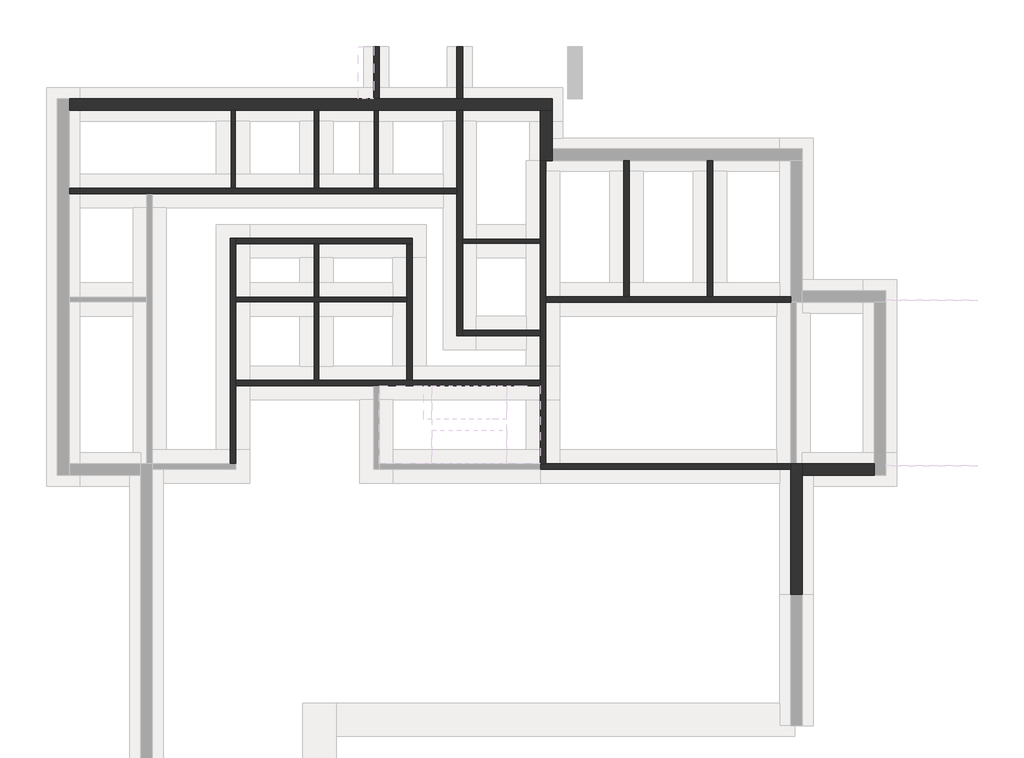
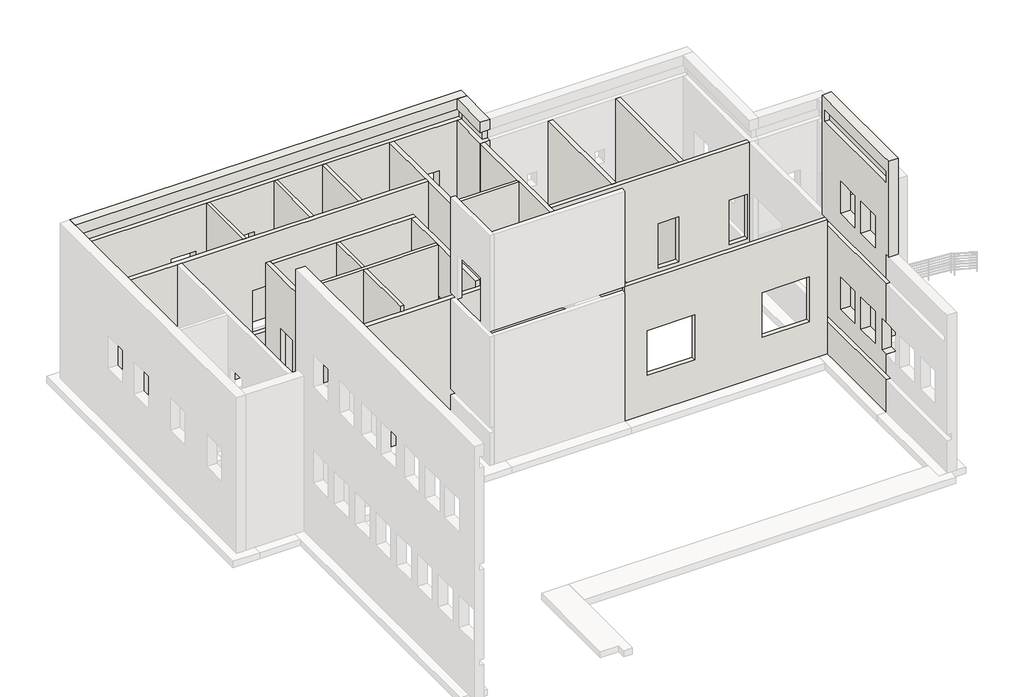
# One storey, part 2 of 5: 24 walls.
"""IFC4 building model written with IfcOpenShell, lengths in millimetres."""

import ifcopenshell
import ifcopenshell.guid

model = None  # the IFC model being written
_history = None  # IfcOwnerHistory: only IFC2X3 demands one
_inside = {}  # id of a spatial element -> (the spatial element, [elements in it])
_under = {}  # id of a project, library or spatial element -> (it, [spatial elements below it])
_declared = {}  # id of a project -> (the project, [libraries it declares])
_typed = {}  # id of a type object -> (the type object, [elements of that type])
_made_of = {}  # id of a material, layer set ... -> (it, [elements and type objects made of it])


def new_model(schema):
    """Start an empty IFC model of exactly this schema.

    Asked for "IFC4X3", IfcOpenShell would pick the latest addendum, in which some entities
    have other attributes; the version numbers below select the first issue.
    IFC2X3 requires an IfcOwnerHistory on every rooted entity: one is made here for all.
    """
    global model, _history
    if schema == "IFC4X3":
        model = ifcopenshell.file(schema_version=(4, 3, 0, 0))
    else:
        model = ifcopenshell.file(schema=schema)
    _inside.clear()
    _under.clear()
    _declared.clear()
    _typed.clear()
    _made_of.clear()
    _history = None
    if model.schema == "IFC2X3":
        org = make("IfcOrganization", Name="unknown")
        user = make(
            "IfcPersonAndOrganization",
            ThePerson=make("IfcPerson", FamilyName="unknown"),
            TheOrganization=org,
        )
        app = make(
            "IfcApplication",
            ApplicationDeveloper=org,
            Version="unknown",
            ApplicationFullName="unknown",
            ApplicationIdentifier="unknown",
        )
        _history = make(
            "IfcOwnerHistory",
            OwningUser=user,
            OwningApplication=app,
            ChangeAction="ADDED",
            CreationDate=0,
        )
    return model


def make(cls, **values):
    """One entity of the class cls with the attributes given. An attribute that is None is left unset."""
    return model.create_entity(
        cls, **{name: value for name, value in values.items() if value is not None}
    )


def rooted(cls, **values):
    """An entity with a GlobalId (a new one), such as an element, a storey or a relation."""
    return make(cls, GlobalId=ifcopenshell.guid.new(), OwnerHistory=_history, **values)


def si_unit(unit_type, name, prefix=None):
    """IfcSIUnit, for example si_unit("LENGTHUNIT", "METRE", prefix="MILLI")."""
    return make("IfcSIUnit", UnitType=unit_type, Prefix=prefix, Name=name)


def assignment(units):
    """IfcUnitAssignment: the units of a project."""
    return None if units is None else make("IfcUnitAssignment", Units=units)


def point(xyz):
    """IfcCartesianPoint."""
    return None if xyz is None else make("IfcCartesianPoint", Coordinates=xyz)


def direction(xyz):
    """IfcDirection."""
    return None if xyz is None else make("IfcDirection", DirectionRatios=xyz)


def frame(location, z_axis=None, x_axis=None):
    """IfcAxis2Placement3D, a coordinate frame: its origin and axes. An axis left out is left unset."""
    return make(
        "IfcAxis2Placement3D",
        Location=point(location),
        Axis=direction(z_axis),
        RefDirection=direction(x_axis),
    )


def origin():
    """The frame at (0, 0, 0) with its axes left unset."""
    return frame((0.0, 0.0, 0.0))


def place(relative_to, where):
    """IfcLocalPlacement: puts the frame where relative to a parent placement (None: the world)."""
    return make(
        "IfcLocalPlacement", PlacementRelTo=relative_to, RelativePlacement=where
    )


def context(
    kind, dimensions, precision=None, world=None, true_north=None, identifier=None
):
    """IfcGeometricRepresentationContext, for example the 3D "Model" context."""
    return make(
        "IfcGeometricRepresentationContext",
        ContextIdentifier=identifier,
        ContextType=kind,
        CoordinateSpaceDimension=dimensions,
        Precision=precision,
        WorldCoordinateSystem=world,
        TrueNorth=true_north,
    )


def project(units=None, contexts=None):
    """IfcProject with its units and contexts."""
    return rooted(
        "IfcProject",
        Name="project",
        RepresentationContexts=contexts,
        UnitsInContext=assignment(units),
    )


def spatial(cls, under=None, at=None, **own):
    """A site, building, storey or space (cls), placed at a placement, below another one or the project."""
    s = rooted(cls, ObjectPlacement=at, **own)
    if under is not None:
        _under.setdefault(under.id(), (under, []))[1].append(s)
    return s


def polyline(points):
    """IfcPolyline through the points."""
    return make("IfcPolyline", Points=[point(p) for p in points])


def outline(outer, holes=None, kind="AREA"):
    """IfcArbitraryClosedProfileDef: a profile drawn as a closed curve; with holes, ...WithVoids."""
    if holes is None:
        return make("IfcArbitraryClosedProfileDef", ProfileType=kind, OuterCurve=outer)
    return make(
        "IfcArbitraryProfileDefWithVoids",
        ProfileType=kind,
        OuterCurve=outer,
        InnerCurves=holes,
    )


def extrude(swept, where, along, depth):
    """IfcExtrudedAreaSolid: the profile swept, set in the frame where, extruded along a direction by depth."""
    return make(
        "IfcExtrudedAreaSolid",
        SweptArea=swept,
        Position=where,
        ExtrudedDirection=direction(along),
        Depth=depth,
    )


def faces_of(points, faces, orient=None, outer=None):
    """IfcFace entities. A face is a list of loops; a loop is a list of indices into points, from 0.

    orient and outer hold one flag for each loop. By default every Orientation is true, the
    first loop of a face is its IfcFaceOuterBound and the others are IfcFaceBound.
    """
    made = []
    for i, loops in enumerate(faces):
        bounds = []
        for j, loop in enumerate(loops):
            is_outer = j == 0 if outer is None else outer[i][j]
            bounds.append(
                make(
                    "IfcFaceOuterBound" if is_outer else "IfcFaceBound",
                    Bound=make("IfcPolyLoop", Polygon=[points[k] for k in loop]),
                    Orientation=True if orient is None else orient[i][j],
                )
            )
        made.append(make("IfcFace", Bounds=bounds))
    return made


def faceted_brep(points, faces, orient=None, outer=None, voids=None):
    """IfcFacetedBrep: a solid bounded by flat faces; with voids (closed shells), ...WithVoids."""
    shared = [point(p) for p in points]
    hull = make("IfcClosedShell", CfsFaces=faces_of(shared, faces, orient, outer))
    if voids is None:
        return make("IfcFacetedBrep", Outer=hull)
    return make(
        "IfcFacetedBrepWithVoids",
        Outer=hull,
        Voids=[
            make(cls, CfsFaces=faces_of(shared, fs, o, b)) for cls, fs, o, b in voids
        ],
    )


def shape(context_of_items, identifier, shape_type, items):
    """IfcShapeRepresentation: the items that make up one representation, for example the "Body"."""
    return make(
        "IfcShapeRepresentation",
        ContextOfItems=context_of_items,
        RepresentationIdentifier=identifier,
        RepresentationType=shape_type,
        Items=items,
    )


def made_of(thing, what):
    """Note that an element or type object is made of a material, layer set ...; save() writes the relation."""
    if what is not None:
        _made_of.setdefault(what.id(), (what, []))[1].append(thing)
    return thing


def element(
    cls,
    number,
    at=None,
    inside=None,
    cuts=None,
    type_object=None,
    material=None,
    context=None,
    identifier="Body",
    shape_type=None,
    held_by="IfcProductDefinitionShape",
    body=None,
    shapes=None,
    **own,
):
    """One element of the class cls, such as IfcWall. Its Tag is "e" and its number.

    at: its placement. inside: the storey or other place that contains it. cuts: it is an
    opening in that element (IfcRelVoidsElement). A single representation is given by context,
    identifier, shape_type and body (its items); several are given by shapes. held_by: the class
    of the entity that holds the representations. save() writes the other relations.
    """
    e = rooted(cls, Tag="e%d" % number, ObjectPlacement=at, **own)
    if body is not None:
        shapes = [shape(context, identifier, shape_type, body)]
    if shapes is not None:
        e.Representation = make(held_by, Representations=shapes)
    if inside is not None:
        _inside.setdefault(inside.id(), (inside, []))[1].append(e)
    if cuts is not None:
        rooted(
            "IfcRelVoidsElement", RelatingBuildingElement=cuts, RelatedOpeningElement=e
        )
    if type_object is not None:
        _typed.setdefault(type_object.id(), (type_object, []))[1].append(e)
    return made_of(e, material)


def aggregate(whole, parts):
    """IfcRelAggregates: a whole, such as a stair, and the parts it consists of."""
    return rooted("IfcRelAggregates", RelatingObject=whole, RelatedObjects=parts)


def save(model, path):
    """Write the relations noted so far, then the file.

    IfcRelAggregates (storeys below a building ...), IfcRelContainedInSpatialStructure (elements
    in a storey), IfcRelDefinesByType, IfcRelAssociatesMaterial and IfcRelDeclares: one each for
    every whole, place, type object, material and project.
    """
    for whole, parts in _under.values():
        aggregate(whole, parts)
    for where, things in _inside.values():
        rooted(
            "IfcRelContainedInSpatialStructure",
            RelatedElements=things,
            RelatingStructure=where,
        )
    for kind, things in _typed.values():
        rooted("IfcRelDefinesByType", RelatedObjects=things, RelatingType=kind)
    for what, things in _made_of.values():
        rooted("IfcRelAssociatesMaterial", RelatedObjects=things, RelatingMaterial=what)
    for by, libraries in _declared.values():
        rooted("IfcRelDeclares", RelatingContext=by, RelatedDefinitions=libraries)
    model.write(path)


model = new_model("IFC4")

# Units and contexts
model_context = context("Model", 3, world=origin())
ifc_project = project(units=[si_unit("LENGTHUNIT", "METRE", prefix="MILLI")], contexts=[model_context])

# Site, building, storey
site = spatial("IfcSite", under=ifc_project)
building = spatial("IfcBuilding", under=site)
storey = spatial("IfcBuildingStorey", under=building, Name="Фундамент", Elevation=-1800.0)

# Walls
placement = place(None, origin())
element("IfcWall", 1, ObjectType="_ЖБ-200_У-100_К-120", at=placement, inside=storey, context=model_context, shape_type="Brep", body=[
    faceted_brep([(-17307.2117644, 18492.3976828, -1800.0), (-357.2117644, 18492.3976828, -1800.0), (62.7882356, 18492.3976828, -1800.0), (62.7882356, 18492.3976828, 5500.0), (-357.2117644, 18492.3976828, 5500.0), (-17307.2117644, 18492.3976828, 5500.0), (-17307.2117644, 18492.3976828, 5015.0), (-357.2117644, 18492.3976828, 5015.0), (-157.2117644, 18492.3976828, 5015.0), (-157.2117644, 18492.3976828, 4500.0), (-357.2117644, 18492.3976828, 4500.0), (-6332.2117644, 18492.3976828, 4500.0), (-8332.2117644, 18492.3976828, 4500.0), (-17307.2117644, 18492.3976828, 4500.0), (-17307.2117644, 18492.3976828, 0.0), (-8332.2117644, 18492.3976828, 0.0), (-6332.2117644, 18492.3976828, 0.0), (-6007.2117644, 18492.3976828, 0.0), (-6007.2117644, 18492.3976828, 2200.0), (-3507.2117644, 18492.3976828, 2200.0), (-3507.2117644, 18492.3976828, 0.0), (-357.2117644, 18492.3976828, 0.0), (-157.2117644, 18492.3976828, 0.0), (-157.2117644, 18492.3976828, -270.0), (-357.2117644, 18492.3976828, -270.0), (-17307.2117644, 18492.3976828, -270.0), (-2252.2117644, 18492.3976828, 915.0), (-2252.2117644, 18492.3976828, 2415.0), (-1152.2117644, 18492.3976828, 2415.0), (-1152.2117644, 18492.3976828, 915.0), (-10457.2117644, 18492.3976828, 915.0), (-10457.2117644, 18492.3976828, 2415.0), (-9357.2117644, 18492.3976828, 2415.0), (-9357.2117644, 18492.3976828, 915.0), (-13057.2117644, 18492.3976828, 915.0), (-13057.2117644, 18492.3976828, 2415.0), (-11957.2117644, 18492.3976828, 2415.0), (-11957.2117644, 18492.3976828, 915.0), (-16567.2117644, 18492.3976828, 915.0), (-16567.2117644, 18492.3976828, 2415.0), (-15467.2117644, 18492.3976828, 2415.0), (-15467.2117644, 18492.3976828, 915.0), (62.7882356, 18912.3976828, -1800.0), (-3157.2117644, 18912.3976828, -1800.0), (-3357.2117644, 18912.3976828, -1800.0), (-6157.2117644, 18912.3976828, -1800.0), (-6357.2117644, 18912.3976828, -1800.0), (-17307.2117644, 18912.3976828, -1800.0), (-17307.2117644, 18912.3976828, 5500.0), (62.7882356, 18912.3976828, 5500.0), (-3507.2117644, 18912.3976828, 0.0), (-3507.2117644, 18912.3976828, 2200.0), (-6007.2117644, 18912.3976828, 2200.0), (-6007.2117644, 18912.3976828, 0.0), (-2252.2117644, 18912.3976828, 2415.0), (-2252.2117644, 18912.3976828, 915.0), (-1152.2117644, 18912.3976828, 915.0), (-1152.2117644, 18912.3976828, 2415.0), (-10457.2117644, 18912.3976828, 2415.0), (-10457.2117644, 18912.3976828, 915.0), (-9357.2117644, 18912.3976828, 915.0), (-9357.2117644, 18912.3976828, 2415.0), (-13057.2117644, 18912.3976828, 2415.0), (-13057.2117644, 18912.3976828, 915.0), (-11957.2117644, 18912.3976828, 915.0), (-11957.2117644, 18912.3976828, 2415.0), (-16567.2117644, 18912.3976828, 2415.0), (-16567.2117644, 18912.3976828, 915.0), (-15467.2117644, 18912.3976828, 915.0), (-15467.2117644, 18912.3976828, 2415.0), (-6357.2117644, 18912.3976828, -270.0), (-6157.2117644, 18912.3976828, -270.0), (-3357.2117644, 18912.3976828, -270.0), (-3157.2117644, 18912.3976828, -270.0), (-3157.2117644, 18912.3976828, -70.0), (-6357.2117644, 18912.3976828, -70.0), (-17307.2117644, 18692.3976828, -270.0), (-17307.2117644, 18692.3976828, 0.0), (-17307.2117644, 18692.3976828, 4500.0), (-17307.2117644, 18692.3976828, 5015.0), (-157.2117644, 18692.3976828, -270.0), (-3157.2117644, 18692.3976828, -270.0), (-6357.2117644, 18692.3976828, -270.0), (-6007.2117644, 18692.3976828, 0.0), (-3507.2117644, 18692.3976828, 0.0), (-157.2117644, 18692.3976828, 0.0), (-6357.2117644, 18692.3976828, -70.0), (-3157.2117644, 18692.3976828, -70.0), (-157.2117644, 18692.3976828, 4500.0), (-157.2117644, 18692.3976828, 5015.0)], [[[0, 1, 2, 3, 4, 5, 6, 7, 8, 9, 10, 11, 12, 13, 14, 15, 16, 17, 18, 19, 20, 21, 22, 23, 24, 25], [26, 27, 28, 29], [30, 31, 32, 33], [34, 35, 36, 37], [38, 39, 40, 41]], [[42, 43, 44, 45, 46, 47, 48, 49], [50, 51, 52, 53], [54, 55, 56, 57], [58, 59, 60, 61], [62, 63, 64, 65], [66, 67, 68, 69], [70, 71, 72, 73, 74, 75]], [[2, 1, 0, 47, 46, 45, 44, 43, 42]], [[5, 4, 3, 49, 48]], [[5, 48, 47, 0, 25, 76, 77, 14, 13, 78, 79, 6]], [[3, 2, 42, 49]], [[23, 80, 81, 73, 72, 71, 70, 82, 76, 25, 24]], [[17, 16, 15, 14, 77, 83]], [[84, 85, 22, 21, 20]], [[80, 85, 84, 83, 77, 76, 82, 86, 87, 81]], [[85, 80, 23, 22]], [[9, 88, 78, 13, 12, 11, 10]], [[89, 8, 7, 6, 79]], [[88, 89, 79, 78]], [[89, 88, 9, 8]], [[51, 50, 84, 20, 19]], [[52, 51, 19, 18]], [[53, 52, 18, 17, 83]], [[50, 53, 83, 84]], [[27, 26, 55, 54]], [[28, 27, 54, 57]], [[29, 28, 57, 56]], [[26, 29, 56, 55]], [[31, 30, 59, 58]], [[32, 31, 58, 61]], [[33, 32, 61, 60]], [[30, 33, 60, 59]], [[35, 34, 63, 62]], [[36, 35, 62, 65]], [[37, 36, 65, 64]], [[34, 37, 64, 63]], [[39, 38, 67, 66]], [[40, 39, 66, 69]], [[41, 40, 69, 68]], [[38, 41, 68, 67]], [[86, 75, 74, 87]], [[82, 70, 75, 86]], [[73, 81, 87, 74]]]),
])
element("IfcWall", 2, ObjectType="_ЖБ-200_У-100_К-120", at=placement, inside=storey, context=model_context, shape_type="Brep", body=[
    faceted_brep([(-357.2117644, 18492.3976828, -1800.0), (-357.2117644, 16692.3976828, -1800.0), (-357.2117644, 16692.3976828, -270.0), (-357.2117644, 18492.3976828, -270.0), (-357.2117644, 16692.3976828, 5500.0), (-357.2117644, 18492.3976828, 5500.0), (-357.2117644, 18492.3976828, 5015.0), (-357.2117644, 16692.3976828, 5015.0), (-357.2117644, 18492.3976828, 0.0), (-357.2117644, 16692.3976828, 0.0), (-357.2117644, 16692.3976828, 4500.0), (-357.2117644, 18492.3976828, 4500.0), (62.7882356, 16692.3976828, -1800.0), (62.7882356, 17112.3976828, -1800.0), (62.7882356, 18492.3976828, -1800.0), (62.7882356, 18492.3976828, 5500.0), (62.7882356, 17112.3976828, 5500.0), (62.7882356, 16692.3976828, 5500.0), (62.7882356, 16692.3976828, 5015.0), (62.7882356, 16892.3976828, 5015.0), (62.7882356, 16892.3976828, 4500.0), (62.7882356, 16692.3976828, 4500.0), (62.7882356, 16692.3976828, 0.0), (62.7882356, 16892.3976828, 0.0), (62.7882356, 16892.3976828, -270.0), (62.7882356, 16692.3976828, -270.0), (-157.2117644, 18492.3976828, -270.0), (-157.2117644, 18492.3976828, 0.0), (-157.2117644, 18492.3976828, 4500.0), (-157.2117644, 18492.3976828, 5015.0), (-157.2117644, 16892.3976828, -270.0), (-157.2117644, 16892.3976828, 0.0), (-157.2117644, 16892.3976828, 4500.0), (-157.2117644, 16892.3976828, 5015.0)], [[[0, 1, 2, 3]], [[4, 5, 6, 7]], [[8, 9, 10, 11]], [[12, 13, 14, 15, 16, 17, 18, 19, 20, 21, 22, 23, 24, 25]], [[1, 0, 14, 13, 12]], [[5, 4, 17, 16, 15]], [[5, 15, 14, 0, 3, 26, 27, 8, 11, 28, 29, 6]], [[24, 30, 26, 3, 2, 25]], [[27, 31, 23, 22, 9, 8]], [[30, 31, 27, 26]], [[31, 30, 24, 23]], [[1, 12, 25, 2]], [[17, 4, 7, 18]], [[9, 22, 21, 10]], [[20, 32, 28, 11, 10, 21]], [[29, 33, 19, 18, 7, 6]], [[33, 32, 20, 19]], [[32, 33, 29, 28]]]),
])
element("IfcWall", 3, ObjectType="_ЖБ-200_У-100_К-120", at=placement, inside=storey, context=model_context, shape_type="Brep", body=[
    faceted_brep([(11642.7882356, 5792.3976828, -1800.0), (9062.7882356, 5792.3976828, -1800.0), (9062.7882356, 5792.3976828, -270.0), (11642.7882356, 5792.3976828, -270.0), (9062.7882356, 5792.3976828, 5500.0), (11642.7882356, 5792.3976828, 5500.0), (11642.7882356, 5792.3976828, 5015.0), (11642.7882356, 5792.3976828, 4500.0), (11642.7882356, 5792.3976828, 0.0), (9062.7882356, 5792.3976828, 0.0), (9062.7882356, 5792.3976828, 4500.0), (10902.7882356, 5792.3976828, 915.0), (10902.7882356, 5792.3976828, 2415.0), (9802.7882356, 5792.3976828, 2415.0), (9802.7882356, 5792.3976828, 915.0), (9062.7882356, 5372.3976828, -1800.0), (11642.7882356, 5372.3976828, -1800.0), (11642.7882356, 5372.3976828, 5500.0), (9062.7882356, 5372.3976828, 5500.0), (10902.7882356, 5372.3976828, 2415.0), (10902.7882356, 5372.3976828, 915.0), (9802.7882356, 5372.3976828, 915.0), (9802.7882356, 5372.3976828, 2415.0), (11642.7882356, 5592.3976828, -270.0), (11642.7882356, 5592.3976828, 0.0), (9062.7882356, 5592.3976828, -270.0), (9062.7882356, 5592.3976828, 0.0)], [[[0, 1, 2, 3]], [[4, 5, 6, 7, 8, 9, 10], [11, 12, 13, 14]], [[15, 16, 17, 18], [19, 20, 21, 22]], [[1, 0, 16, 15]], [[5, 4, 18, 17]], [[5, 17, 16, 0, 3, 23, 24, 8, 7, 6]], [[25, 23, 3, 2]], [[24, 26, 9, 8]], [[23, 25, 26, 24]], [[1, 15, 18, 4, 10, 9, 26, 25, 2]], [[12, 11, 20, 19]], [[13, 12, 19, 22]], [[14, 13, 22, 21]], [[11, 14, 21, 20]]]),
])
element("IfcWall", 4, ObjectType="_ЖБ-200_У-100_К-120", at=placement, inside=storey, context=model_context, shape_type="Brep", body=[
    faceted_brep([(8642.7882356, 5792.3976828, -1800.0), (8642.7882356, 1082.3976828, -1800.0), (8642.7882356, 1082.3976828, -270.0), (8642.7882356, 5792.3976828, -270.0), (8642.7882356, 872.3976828, 10100.0), (8642.7882356, 1292.3976828, 10100.0), (8642.7882356, 5592.3976828, 10100.0), (8642.7882356, 6012.3976828, 10100.0), (8642.7882356, 6012.3976828, 5015.0), (8642.7882356, 6012.3976828, 4500.0), (8642.7882356, 5792.3976828, 4500.0), (8642.7882356, 5592.3976828, 4500.0), (8642.7882356, 1292.3976828, 4500.0), (8642.7882356, 1082.3976828, 4500.0), (8642.7882356, 1082.3976828, 5600.0), (8642.7882356, 872.3976828, 5600.0), (8642.7882356, 1092.3976828, 9000.0), (8642.7882356, 1292.3976828, 9000.0), (8642.7882356, 5592.3976828, 9000.0), (8642.7882356, 5792.3976828, 9000.0), (8642.7882356, 5792.3976828, 9515.0), (8642.7882356, 5592.3976828, 9515.0), (8642.7882356, 1292.3976828, 9515.0), (8642.7882356, 1092.3976828, 9515.0), (8642.7882356, 4582.3976828, 5415.0), (8642.7882356, 4582.3976828, 6915.0), (8642.7882356, 3482.3976828, 6915.0), (8642.7882356, 3482.3976828, 5415.0), (8642.7882356, 3032.3976828, 5415.0), (8642.7882356, 3032.3976828, 6915.0), (8642.7882356, 1932.3976828, 6915.0), (8642.7882356, 1932.3976828, 5415.0), (8642.7882356, 5792.3976828, 0.0), (8642.7882356, 1082.3976828, 0.0), (8642.7882356, 1082.3976828, 915.0), (8642.7882356, 1432.3976828, 915.0), (8642.7882356, 1432.3976828, 2415.0), (8642.7882356, 1082.3976828, 2415.0), (8642.7882356, 1082.3976828, 4230.0), (8642.7882356, 5792.3976828, 4230.0), (8642.7882356, 3032.3976828, 915.0), (8642.7882356, 3032.3976828, 2415.0), (8642.7882356, 1932.3976828, 2415.0), (8642.7882356, 1932.3976828, 915.0), (8642.7882356, 4582.3976828, 915.0), (8642.7882356, 4582.3976828, 2415.0), (8642.7882356, 3482.3976828, 2415.0), (8642.7882356, 3482.3976828, 915.0), (9062.7882356, 1082.3976828, -1800.0), (9062.7882356, 5372.3976828, -1800.0), (9062.7882356, 5792.3976828, -1800.0), (9062.7882356, 5792.3976828, -270.0), (9062.7882356, 5592.3976828, -270.0), (9062.7882356, 5592.3976828, 0.0), (9062.7882356, 5792.3976828, 0.0), (9062.7882356, 5792.3976828, 4500.0), (9062.7882356, 6012.3976828, 4500.0), (9062.7882356, 6012.3976828, 10100.0), (9062.7882356, 872.3976828, 10100.0), (9062.7882356, 872.3976828, 5600.0), (9062.7882356, 1082.3976828, 5600.0), (9062.7882356, 1082.3976828, 2415.0), (9062.7882356, 1432.3976828, 2415.0), (9062.7882356, 1432.3976828, 915.0), (9062.7882356, 1082.3976828, 915.0), (9062.7882356, 3032.3976828, 2415.0), (9062.7882356, 3032.3976828, 915.0), (9062.7882356, 1932.3976828, 915.0), (9062.7882356, 1932.3976828, 2415.0), (9062.7882356, 4582.3976828, 2415.0), (9062.7882356, 4582.3976828, 915.0), (9062.7882356, 3482.3976828, 915.0), (9062.7882356, 3482.3976828, 2415.0), (9062.7882356, 4582.3976828, 6915.0), (9062.7882356, 4582.3976828, 5415.0), (9062.7882356, 3482.3976828, 5415.0), (9062.7882356, 3482.3976828, 6915.0), (9062.7882356, 3032.3976828, 6915.0), (9062.7882356, 3032.3976828, 5415.0), (9062.7882356, 1932.3976828, 5415.0), (9062.7882356, 1932.3976828, 6915.0), (8842.7882356, 5792.3976828, 4500.0), (8842.7882356, 1082.3976828, 4500.0), (8842.7882356, 5792.3976828, 4230.0), (8842.7882356, 1082.3976828, 0.0), (8842.7882356, 1082.3976828, -270.0), (8842.7882356, 1082.3976828, 4230.0), (8842.7882356, 5592.3976828, -270.0), (8842.7882356, 5592.3976828, 0.0), (8842.7882356, 1092.3976828, 9000.0), (8842.7882356, 5792.3976828, 9000.0), (8842.7882356, 5792.3976828, 9515.0), (8842.7882356, 1092.3976828, 9515.0)], [[[0, 1, 2, 3]], [[4, 5, 6, 7, 8, 9, 10, 11, 12, 13, 14, 15], [16, 17, 18, 19, 20, 21, 22, 23], [24, 25, 26, 27], [28, 29, 30, 31]], [[32, 33, 34, 35, 36, 37, 38, 39], [40, 41, 42, 43], [44, 45, 46, 47]], [[48, 49, 50, 51, 52, 53, 54, 55, 56, 57, 58, 59, 60, 61, 62, 63, 64], [65, 66, 67, 68], [69, 70, 71, 72], [73, 74, 75, 76], [77, 78, 79, 80]], [[1, 0, 50, 49, 48]], [[7, 6, 5, 4, 58, 57]], [[56, 55, 81, 82, 13, 12, 11, 10, 9]], [[50, 0, 3, 51]], [[54, 32, 39, 83, 81, 55]], [[1, 48, 64, 34, 33, 84, 85, 2]], [[60, 14, 13, 82, 86, 38, 37, 61]], [[15, 14, 60, 59]], [[4, 15, 59, 58]], [[85, 87, 52, 51, 3, 2]], [[88, 84, 33, 32, 54, 53]], [[87, 88, 53, 52]], [[87, 85, 84, 88]], [[86, 83, 39, 38]], [[83, 86, 82, 81]], [[7, 57, 56, 9, 8]], [[89, 90, 19, 18, 17, 16]], [[91, 92, 23, 22, 21, 20]], [[92, 89, 16, 23]], [[90, 89, 92, 91]], [[90, 91, 20, 19]], [[35, 63, 62, 36]], [[36, 62, 61, 37]], [[63, 35, 34, 64]], [[41, 40, 66, 65]], [[42, 41, 65, 68]], [[43, 42, 68, 67]], [[40, 43, 67, 66]], [[45, 44, 70, 69]], [[46, 45, 69, 72]], [[47, 46, 72, 71]], [[44, 47, 71, 70]], [[25, 24, 74, 73]], [[26, 25, 73, 76]], [[27, 26, 76, 75]], [[24, 27, 75, 74]], [[29, 28, 78, 77]], [[30, 29, 77, 80]], [[31, 30, 80, 79]], [[28, 31, 79, 78]]]),
])
element("IfcWall", 5, ObjectType="_ЖБ-200", at=placement, inside=storey, context=model_context, shape_type="Brep", body=[
    faceted_brep([(-11307.2117644, 5792.3976828, -1800.0), (-11307.2117644, 8592.3976828, -1800.0), (-11307.2117644, 8792.3976828, -1800.0), (-11307.2117644, 11617.3976828, -1800.0), (-11307.2117644, 11767.3976828, -1800.0), (-11307.2117644, 13692.3976828, -1800.0), (-11307.2117644, 13892.3976828, -1800.0), (-11307.2117644, 13892.3976828, 4500.0), (-11307.2117644, 13692.3976828, 4500.0), (-11307.2117644, 11767.3976828, 4500.0), (-11307.2117644, 11617.3976828, 4500.0), (-11307.2117644, 5792.3976828, 4500.0), (-11307.2117644, 6292.3976828, 0.0), (-11307.2117644, 6292.3976828, 2100.0), (-11307.2117644, 8092.3976828, 2100.0), (-11307.2117644, 8092.3976828, 0.0), (-11307.2117644, 12742.3976828, 0.0), (-11307.2117644, 11842.3976828, 0.0), (-11307.2117644, 11842.3976828, 2100.0), (-11307.2117644, 12742.3976828, 2100.0), (-11307.2117644, 10542.3976828, 0.0), (-11307.2117644, 10542.3976828, 2100.0), (-11307.2117644, 11442.3976828, 2100.0), (-11307.2117644, 11442.3976828, 0.0), (-11507.2117644, 5792.3976828, -1800.0), (-11507.2117644, 5792.3976828, 4500.0), (-11507.2117644, 13892.3976828, 4500.0), (-11507.2117644, 13892.3976828, -1800.0), (-11507.2117644, 6292.3976828, 0.0), (-11507.2117644, 8092.3976828, 0.0), (-11507.2117644, 8092.3976828, 2100.0), (-11507.2117644, 6292.3976828, 2100.0), (-11507.2117644, 12742.3976828, 0.0), (-11507.2117644, 12742.3976828, 2100.0), (-11507.2117644, 11842.3976828, 2100.0), (-11507.2117644, 11842.3976828, 0.0), (-11507.2117644, 10542.3976828, 0.0), (-11507.2117644, 11442.3976828, 0.0), (-11507.2117644, 11442.3976828, 2100.0), (-11507.2117644, 10542.3976828, 2100.0)], [[[0, 1, 2, 3, 4, 5, 6, 7, 8, 9, 10, 11], [12, 13, 14, 15], [16, 17, 18, 19], [20, 21, 22, 23]], [[24, 25, 26, 27], [28, 29, 30, 31], [32, 33, 34, 35], [36, 37, 38, 39]], [[6, 5, 4, 3, 2, 1, 0, 24, 27]], [[11, 10, 9, 8, 7, 26, 25]], [[0, 11, 25, 24]], [[7, 6, 27, 26]], [[13, 12, 28, 31]], [[14, 13, 31, 30]], [[15, 14, 30, 29]], [[12, 15, 29, 28]], [[17, 16, 32, 35]], [[18, 17, 35, 34]], [[19, 18, 34, 33]], [[16, 19, 33, 32]], [[37, 36, 20, 23]], [[38, 37, 23, 22]], [[39, 38, 22, 21]], [[36, 39, 21, 20]]]),
])
element("IfcWall", 6, ObjectType="_ЖБ-200", at=placement, inside=storey, context=model_context, shape_type="Brep", body=[
    faceted_brep([(-11307.2117644, 8592.3976828, -1800.0), (-6357.2117644, 8592.3976828, -1800.0), (-6157.2117644, 8592.3976828, -1800.0), (-357.2117644, 8592.3976828, -1800.0), (-357.2117644, 8592.3976828, 4500.0), (-4557.2117644, 8592.3976828, 4500.0), (-4557.2117644, 8592.3976828, 4230.0), (-6157.2117644, 8592.3976828, 4230.0), (-6357.2117644, 8592.3976828, 4230.0), (-11307.2117644, 8592.3976828, 4230.0), (-357.2117644, 8792.3976828, -1800.0), (-4957.2117644, 8792.3976828, -1800.0), (-5157.2117644, 8792.3976828, -1800.0), (-8332.2117644, 8792.3976828, -1800.0), (-8482.2117644, 8792.3976828, -1800.0), (-11307.2117644, 8792.3976828, -1800.0), (-11307.2117644, 8792.3976828, 4230.0), (-4557.2117644, 8792.3976828, 4230.0), (-4557.2117644, 8792.3976828, 4500.0), (-357.2117644, 8792.3976828, 4500.0)], [[[0, 1, 2, 3, 4, 5, 6, 7, 8, 9]], [[10, 11, 12, 13, 14, 15, 16, 17, 18, 19]], [[3, 2, 1, 0, 15, 14, 13, 12, 11, 10]], [[4, 19, 18, 5]], [[15, 0, 9, 16]], [[4, 3, 10, 19]], [[6, 17, 16, 9, 8, 7]], [[17, 6, 5, 18]]]),
])
element("IfcWall", 7, ObjectType="_ЖБ-200", at=placement, inside=storey, context=model_context, shape_type="Brep", body=[
    faceted_brep([(-157.2117644, 5792.3976828, -1800.0), (-157.2117644, 11592.3976828, -1800.0), (-157.2117644, 11792.3976828, -1800.0), (-157.2117644, 16692.3976828, -1800.0), (-157.2117644, 16692.3976828, -270.0), (-157.2117644, 5792.3976828, -270.0), (-357.2117644, 16692.3976828, -1800.0), (-357.2117644, 13867.3976828, -1800.0), (-357.2117644, 13717.3976828, -1800.0), (-357.2117644, 10592.3976828, -1800.0), (-357.2117644, 10392.3976828, -1800.0), (-357.2117644, 8792.3976828, -1800.0), (-357.2117644, 8592.3976828, -1800.0), (-357.2117644, 6292.3976828, -1800.0), (-357.2117644, 5792.3976828, -1800.0), (-357.2117644, 5792.3976828, -270.0), (-357.2117644, 16692.3976828, -270.0)], [[[0, 1, 2, 3, 4, 5]], [[6, 7, 8, 9, 10, 11, 12, 13, 14, 15, 16]], [[3, 2, 1, 0, 14, 13, 12, 11, 10, 9, 8, 7, 6]], [[3, 6, 16, 4]], [[14, 0, 5, 15]], [[5, 4, 16, 15]]]),
    faceted_brep([(-157.2117644, 16692.3976828, 4500.0), (-157.2117644, 11792.3976828, 4500.0), (-157.2117644, 11592.3976828, 4500.0), (-157.2117644, 5792.3976828, 4500.0), (-157.2117644, 5792.3976828, 0.0), (-157.2117644, 6392.3976828, 0.0), (-157.2117644, 6392.3976828, 2100.0), (-157.2117644, 8192.3976828, 2100.0), (-157.2117644, 8192.3976828, 0.0), (-157.2117644, 8842.3976828, 0.0), (-157.2117644, 8842.3976828, 2100.0), (-157.2117644, 9742.3976828, 2100.0), (-157.2117644, 9742.3976828, 0.0), (-157.2117644, 16692.3976828, 0.0), (-357.2117644, 5792.3976828, 4500.0), (-357.2117644, 8592.3976828, 4500.0), (-357.2117644, 8792.3976828, 4500.0), (-357.2117644, 10392.3976828, 4500.0), (-357.2117644, 10592.3976828, 4500.0), (-357.2117644, 13717.3976828, 4500.0), (-357.2117644, 13867.3976828, 4500.0), (-357.2117644, 16692.3976828, 4500.0), (-357.2117644, 16692.3976828, 0.0), (-357.2117644, 9742.3976828, 0.0), (-357.2117644, 9742.3976828, 2100.0), (-357.2117644, 8842.3976828, 2100.0), (-357.2117644, 8842.3976828, 0.0), (-357.2117644, 8192.3976828, 0.0), (-357.2117644, 8192.3976828, 2100.0), (-357.2117644, 6392.3976828, 2100.0), (-357.2117644, 6392.3976828, 0.0), (-357.2117644, 5792.3976828, 0.0)], [[[0, 1, 2, 3, 4, 5, 6, 7, 8, 9, 10, 11, 12, 13]], [[14, 15, 16, 17, 18, 19, 20, 21, 22, 23, 24, 25, 26, 27, 28, 29, 30, 31]], [[3, 2, 1, 0, 21, 20, 19, 18, 17, 16, 15, 14]], [[21, 0, 13, 22]], [[3, 14, 31, 4]], [[10, 9, 26, 25]], [[11, 10, 25, 24]], [[12, 11, 24, 23]], [[13, 12, 23, 22]], [[5, 4, 31, 30]], [[9, 8, 27, 26]], [[6, 5, 30, 29]], [[7, 6, 29, 28]], [[8, 7, 28, 27]]]),
])
element("IfcWall", 8, ObjectType="_ЖБ-200", at=placement, inside=storey, context=model_context, shape_type="Brep", body=[
    faceted_brep([(-157.2117644, 11592.3976828, -1800.0), (8642.7882356, 11592.3976828, -1800.0), (8642.7882356, 11592.3976828, 4500.0), (-157.2117644, 11592.3976828, 4500.0), (892.7882356, 11592.3976828, 0.0), (-7.2117644, 11592.3976828, 0.0), (-7.2117644, 11592.3976828, 2100.0), (892.7882356, 11592.3976828, 2100.0), (7752.7882356, 11592.3976828, 0.0), (7752.7882356, 11592.3976828, 2100.0), (8552.7882356, 11592.3976828, 2100.0), (8552.7882356, 11592.3976828, 0.0), (4592.7882356, 11592.3976828, 0.0), (4592.7882356, 11592.3976828, 2100.0), (5492.7882356, 11592.3976828, 2100.0), (5492.7882356, 11592.3976828, 0.0), (-157.2117644, 11792.3976828, -1800.0), (-157.2117644, 11792.3976828, 4500.0), (2642.7882356, 11792.3976828, 4500.0), (2842.7882356, 11792.3976828, 4500.0), (5642.7882356, 11792.3976828, 4500.0), (5842.7882356, 11792.3976828, 4500.0), (8642.7882356, 11792.3976828, 4500.0), (8642.7882356, 11792.3976828, -1800.0), (5842.7882356, 11792.3976828, -1800.0), (5642.7882356, 11792.3976828, -1800.0), (2842.7882356, 11792.3976828, -1800.0), (2642.7882356, 11792.3976828, -1800.0), (892.7882356, 11792.3976828, 0.0), (892.7882356, 11792.3976828, 2100.0), (-7.2117644, 11792.3976828, 2100.0), (-7.2117644, 11792.3976828, 0.0), (7752.7882356, 11792.3976828, 0.0), (8552.7882356, 11792.3976828, 0.0), (8552.7882356, 11792.3976828, 2100.0), (7752.7882356, 11792.3976828, 2100.0), (4592.7882356, 11792.3976828, 0.0), (5492.7882356, 11792.3976828, 0.0), (5492.7882356, 11792.3976828, 2100.0), (4592.7882356, 11792.3976828, 2100.0)], [[[0, 1, 2, 3], [4, 5, 6, 7], [8, 9, 10, 11], [12, 13, 14, 15]], [[16, 17, 18, 19, 20, 21, 22, 23, 24, 25, 26, 27], [28, 29, 30, 31], [32, 33, 34, 35], [36, 37, 38, 39]], [[1, 0, 16, 27, 26, 25, 24, 23]], [[3, 2, 22, 21, 20, 19, 18, 17]], [[0, 3, 17, 16]], [[2, 1, 23, 22]], [[5, 4, 28, 31]], [[6, 5, 31, 30]], [[7, 6, 30, 29]], [[4, 7, 29, 28]], [[33, 32, 8, 11]], [[34, 33, 11, 10]], [[35, 34, 10, 9]], [[32, 35, 9, 8]], [[37, 36, 12, 15]], [[38, 37, 15, 14]], [[39, 38, 14, 13]], [[36, 39, 13, 12]]]),
])
element("IfcWall", 9, ObjectType="_ЖБ-200", at=placement, inside=storey, context=model_context, shape_type="SweptSolid", body=[
    extrude(outline(polyline([(5842.7882356, 16692.3976828), (5842.7882356, 11792.3976828), (5642.7882356, 11792.3976828), (5642.7882356, 16692.3976828), (5842.7882356, 16692.3976828)])), frame((0.0, 0.0, -1800.0), z_axis=(0.0, 0.0, 1.0), x_axis=(1.0, 0.0, 0.0)), (0.0, 0.0, 1.0), 6300.0),
])
element("IfcWall", 10, ObjectType="_ЖБ-200", at=placement, inside=storey, context=model_context, shape_type="SweptSolid", body=[
    extrude(outline(polyline([(2842.7882356, 16692.3976828), (2842.7882356, 11792.3976828), (2642.7882356, 11792.3976828), (2642.7882356, 16692.3976828), (2842.7882356, 16692.3976828)])), frame((0.0, 0.0, -1800.0), z_axis=(0.0, 0.0, 1.0), x_axis=(1.0, 0.0, 0.0)), (0.0, 0.0, 1.0), 6300.0),
])
element("IfcWall", 11, ObjectType="_ЖБ-200", at=placement, inside=storey, context=model_context, shape_type="Brep", body=[
    faceted_brep([(-11307.2117644, 13692.3976828, -1800.0), (-8482.2117644, 13692.3976828, -1800.0), (-8332.2117644, 13692.3976828, -1800.0), (-5157.2117644, 13692.3976828, -1800.0), (-4957.2117644, 13692.3976828, -1800.0), (-4957.2117644, 13692.3976828, 4500.0), (-5157.2117644, 13692.3976828, 4500.0), (-8332.2117644, 13692.3976828, 4500.0), (-8482.2117644, 13692.3976828, 4500.0), (-11307.2117644, 13692.3976828, 4500.0), (-11307.2117644, 13892.3976828, -1800.0), (-11307.2117644, 13892.3976828, 4500.0), (-4957.2117644, 13892.3976828, 4500.0), (-4957.2117644, 13892.3976828, -1800.0)], [[[0, 1, 2, 3, 4, 5, 6, 7, 8, 9]], [[10, 11, 12, 13]], [[4, 3, 2, 1, 0, 10, 13]], [[9, 8, 7, 6, 5, 12, 11]], [[0, 9, 11, 10]], [[5, 4, 13, 12]]]),
])
element("IfcWall", 12, ObjectType="_ЖБ-200", at=placement, inside=storey, context=model_context, shape_type="Brep", body=[
    faceted_brep([(-5157.2117644, 13692.3976828, -1800.0), (-5157.2117644, 11767.3976828, -1800.0), (-5157.2117644, 11617.3976828, -1800.0), (-5157.2117644, 8792.3976828, -1800.0), (-5157.2117644, 8792.3976828, 4500.0), (-5157.2117644, 11617.3976828, 4500.0), (-5157.2117644, 11767.3976828, 4500.0), (-5157.2117644, 13692.3976828, 4500.0), (-5157.2117644, 12742.3976828, 0.0), (-5157.2117644, 12742.3976828, 2100.0), (-5157.2117644, 11842.3976828, 2100.0), (-5157.2117644, 11842.3976828, 0.0), (-5157.2117644, 10642.3976828, 0.0), (-5157.2117644, 11542.3976828, 0.0), (-5157.2117644, 11542.3976828, 2100.0), (-5157.2117644, 10642.3976828, 2100.0), (-4957.2117644, 13692.3976828, -1800.0), (-4957.2117644, 13692.3976828, 4500.0), (-4957.2117644, 8792.3976828, 4500.0), (-4957.2117644, 8792.3976828, -1800.0), (-4957.2117644, 12742.3976828, 0.0), (-4957.2117644, 11842.3976828, 0.0), (-4957.2117644, 11842.3976828, 2100.0), (-4957.2117644, 12742.3976828, 2100.0), (-4957.2117644, 10642.3976828, 0.0), (-4957.2117644, 10642.3976828, 2100.0), (-4957.2117644, 11542.3976828, 2100.0), (-4957.2117644, 11542.3976828, 0.0)], [[[0, 1, 2, 3, 4, 5, 6, 7], [8, 9, 10, 11], [12, 13, 14, 15]], [[16, 17, 18, 19], [20, 21, 22, 23], [24, 25, 26, 27]], [[3, 2, 1, 0, 16, 19]], [[7, 6, 5, 4, 18, 17]], [[0, 7, 17, 16]], [[4, 3, 19, 18]], [[21, 20, 8, 11]], [[22, 21, 11, 10]], [[23, 22, 10, 9]], [[20, 23, 9, 8]], [[13, 12, 24, 27]], [[14, 13, 27, 26]], [[15, 14, 26, 25]], [[12, 15, 25, 24]]]),
])
element("IfcWall", 13, ObjectType="_ЖБ-200", at=placement, inside=storey, context=model_context, shape_type="Brep", body=[
    faceted_brep([(-17307.2117644, 15492.3976828, -1800.0), (-14507.2117644, 15492.3976828, -1800.0), (-14307.2117644, 15492.3976828, -1800.0), (-3357.2117644, 15492.3976828, -1800.0), (-3357.2117644, 15492.3976828, 4500.0), (-14307.2117644, 15492.3976828, 4500.0), (-14507.2117644, 15492.3976828, 4500.0), (-17307.2117644, 15492.3976828, 4500.0), (-13257.2117644, 15492.3976828, 0.0), (-14157.2117644, 15492.3976828, 0.0), (-14157.2117644, 15492.3976828, 2100.0), (-13257.2117644, 15492.3976828, 2100.0), (-10257.2117644, 15492.3976828, 0.0), (-11157.2117644, 15492.3976828, 0.0), (-11157.2117644, 15492.3976828, 2100.0), (-10257.2117644, 15492.3976828, 2100.0), (-7057.2117644, 15492.3976828, 0.0), (-7957.2117644, 15492.3976828, 0.0), (-7957.2117644, 15492.3976828, 2100.0), (-7057.2117644, 15492.3976828, 2100.0), (-5657.2117644, 15492.3976828, 0.0), (-5657.2117644, 15492.3976828, 2100.0), (-3857.2117644, 15492.3976828, 2100.0), (-3857.2117644, 15492.3976828, 0.0), (-17307.2117644, 15692.3976828, -1800.0), (-17307.2117644, 15692.3976828, 4500.0), (-11482.2117644, 15692.3976828, 4500.0), (-11332.2117644, 15692.3976828, 4500.0), (-8482.2117644, 15692.3976828, 4500.0), (-8332.2117644, 15692.3976828, 4500.0), (-6332.2117644, 15692.3976828, 4500.0), (-6182.2117644, 15692.3976828, 4500.0), (-3357.2117644, 15692.3976828, 4500.0), (-3357.2117644, 15692.3976828, -1800.0), (-6182.2117644, 15692.3976828, -1800.0), (-6332.2117644, 15692.3976828, -1800.0), (-8332.2117644, 15692.3976828, -1800.0), (-8482.2117644, 15692.3976828, -1800.0), (-11332.2117644, 15692.3976828, -1800.0), (-11482.2117644, 15692.3976828, -1800.0), (-13257.2117644, 15692.3976828, 0.0), (-13257.2117644, 15692.3976828, 2100.0), (-14157.2117644, 15692.3976828, 2100.0), (-14157.2117644, 15692.3976828, 0.0), (-10257.2117644, 15692.3976828, 0.0), (-10257.2117644, 15692.3976828, 2100.0), (-11157.2117644, 15692.3976828, 2100.0), (-11157.2117644, 15692.3976828, 0.0), (-7057.2117644, 15692.3976828, 0.0), (-7057.2117644, 15692.3976828, 2100.0), (-7957.2117644, 15692.3976828, 2100.0), (-7957.2117644, 15692.3976828, 0.0), (-5657.2117644, 15692.3976828, 0.0), (-3857.2117644, 15692.3976828, 0.0), (-3857.2117644, 15692.3976828, 2100.0), (-5657.2117644, 15692.3976828, 2100.0)], [[[0, 1, 2, 3, 4, 5, 6, 7], [8, 9, 10, 11], [12, 13, 14, 15], [16, 17, 18, 19], [20, 21, 22, 23]], [[24, 25, 26, 27, 28, 29, 30, 31, 32, 33, 34, 35, 36, 37, 38, 39], [40, 41, 42, 43], [44, 45, 46, 47], [48, 49, 50, 51], [52, 53, 54, 55]], [[3, 2, 1, 0, 24, 39, 38, 37, 36, 35, 34, 33]], [[7, 6, 5, 4, 32, 31, 30, 29, 28, 27, 26, 25]], [[0, 7, 25, 24]], [[4, 3, 33, 32]], [[9, 8, 40, 43]], [[10, 9, 43, 42]], [[11, 10, 42, 41]], [[8, 11, 41, 40]], [[13, 12, 44, 47]], [[14, 13, 47, 46]], [[15, 14, 46, 45]], [[12, 15, 45, 44]], [[17, 16, 48, 51]], [[18, 17, 51, 50]], [[19, 18, 50, 49]], [[16, 19, 49, 48]], [[21, 20, 52, 55]], [[22, 21, 55, 54]], [[23, 22, 54, 53]], [[20, 23, 53, 52]]]),
])
element("IfcWall", 14, ObjectType="_ЖБ-200", at=placement, inside=storey, context=model_context, shape_type="Brep", body=[
    faceted_brep([(-3357.2117644, 18492.3976828, -1800.0), (-3357.2117644, 15692.3976828, -1800.0), (-3357.2117644, 15492.3976828, -1800.0), (-3357.2117644, 10392.3976828, -1800.0), (-3357.2117644, 10392.3976828, 4500.0), (-3357.2117644, 15492.3976828, 4500.0), (-3357.2117644, 15692.3976828, 4500.0), (-3357.2117644, 18492.3976828, 4500.0), (-3357.2117644, 14842.3976828, 0.0), (-3357.2117644, 14842.3976828, 2100.0), (-3357.2117644, 13942.3976828, 2100.0), (-3357.2117644, 13942.3976828, 0.0), (-3357.2117644, 12617.3976828, 0.0), (-3357.2117644, 13517.3976828, 0.0), (-3357.2117644, 13517.3976828, 2100.0), (-3357.2117644, 12617.3976828, 2100.0), (-3157.2117644, 18492.3976828, -1800.0), (-3157.2117644, 18492.3976828, 4500.0), (-3157.2117644, 13867.3976828, 4500.0), (-3157.2117644, 13717.3976828, 4500.0), (-3157.2117644, 10592.3976828, 4500.0), (-3157.2117644, 10392.3976828, 4500.0), (-3157.2117644, 10392.3976828, -1800.0), (-3157.2117644, 10592.3976828, -1800.0), (-3157.2117644, 13717.3976828, -1800.0), (-3157.2117644, 13867.3976828, -1800.0), (-3157.2117644, 14842.3976828, 0.0), (-3157.2117644, 13942.3976828, 0.0), (-3157.2117644, 13942.3976828, 2100.0), (-3157.2117644, 14842.3976828, 2100.0), (-3157.2117644, 12617.3976828, 0.0), (-3157.2117644, 12617.3976828, 2100.0), (-3157.2117644, 13517.3976828, 2100.0), (-3157.2117644, 13517.3976828, 0.0)], [[[0, 1, 2, 3, 4, 5, 6, 7], [8, 9, 10, 11], [12, 13, 14, 15]], [[16, 17, 18, 19, 20, 21, 22, 23, 24, 25], [26, 27, 28, 29], [30, 31, 32, 33]], [[3, 2, 1, 0, 16, 25, 24, 23, 22]], [[7, 6, 5, 4, 21, 20, 19, 18, 17]], [[0, 7, 17, 16]], [[4, 3, 22, 21]], [[27, 26, 8, 11]], [[28, 27, 11, 10]], [[29, 28, 10, 9]], [[26, 29, 9, 8]], [[13, 12, 30, 33]], [[14, 13, 33, 32]], [[15, 14, 32, 31]], [[12, 15, 31, 30]]]),
])
element("IfcWall", 15, ObjectType="_ЖБ-200", at=placement, inside=storey, context=model_context, shape_type="SweptSolid", body=[
    extrude(outline(polyline([(-357.2117644, 10392.3976828), (-3157.2117644, 10392.3976828), (-3157.2117644, 10592.3976828), (-357.2117644, 10592.3976828), (-357.2117644, 10392.3976828)])), frame((0.0, 0.0, -1800.0), z_axis=(0.0, 0.0, 1.0), x_axis=(1.0, 0.0, 0.0)), (0.0, 0.0, 1.0), 6300.0),
])
element("IfcWall", 16, ObjectType="_ЖБ-150", at=placement, inside=storey, context=model_context, shape_type="SweptSolid", body=[
    extrude(outline(polyline([(-11482.2117644, 15692.3976828), (-11482.2117644, 18492.3976828), (-11332.2117644, 18492.3976828), (-11332.2117644, 15692.3976828), (-11482.2117644, 15692.3976828)])), frame((0.0, 0.0, -1800.0), z_axis=(0.0, 0.0, 1.0), x_axis=(1.0, 0.0, 0.0)), (0.0, 0.0, 1.0), 6300.0),
])
element("IfcWall", 17, ObjectType="_ЖБ-150", at=placement, inside=storey, context=model_context, shape_type="SweptSolid", body=[
    extrude(outline(polyline([(-8482.2117644, 15692.3976828), (-8482.2117644, 18492.3976828), (-8332.2117644, 18492.3976828), (-8332.2117644, 15692.3976828), (-8482.2117644, 15692.3976828)])), frame((0.0, 0.0, -1800.0), z_axis=(0.0, 0.0, 1.0), x_axis=(1.0, 0.0, 0.0)), (0.0, 0.0, 1.0), 6300.0),
])
element("IfcWall", 18, ObjectType="_ЖБ-150", at=placement, inside=storey, context=model_context, shape_type="SweptSolid", body=[
    extrude(outline(polyline([(-6332.2117644, 15692.3976828), (-6332.2117644, 18492.3976828), (-6182.2117644, 18492.3976828), (-6182.2117644, 15692.3976828), (-6332.2117644, 15692.3976828)])), frame((0.0, 0.0, -1800.0), z_axis=(0.0, 0.0, 1.0), x_axis=(1.0, 0.0, 0.0)), (0.0, 0.0, 1.0), 6300.0),
])
element("IfcWall", 19, ObjectType="_ЖБ-150", at=placement, inside=storey, context=model_context, shape_type="SweptSolid", body=[
    extrude(outline(polyline([(-357.2117644, 13717.3976828), (-3157.2117644, 13717.3976828), (-3157.2117644, 13867.3976828), (-357.2117644, 13867.3976828), (-357.2117644, 13717.3976828)])), frame((0.0, 0.0, -1800.0), z_axis=(0.0, 0.0, 1.0), x_axis=(1.0, 0.0, 0.0)), (0.0, 0.0, 1.0), 6300.0),
])
element("IfcWall", 20, ObjectType="_ЖБ-150", at=placement, inside=storey, context=model_context, shape_type="Brep", body=[
    faceted_brep([(-11307.2117644, 11617.3976828, -1800.0), (-8482.2117644, 11617.3976828, -1800.0), (-8332.2117644, 11617.3976828, -1800.0), (-5157.2117644, 11617.3976828, -1800.0), (-5157.2117644, 11617.3976828, 4500.0), (-8332.2117644, 11617.3976828, 4500.0), (-8482.2117644, 11617.3976828, 4500.0), (-11307.2117644, 11617.3976828, 4500.0), (-11307.2117644, 11767.3976828, -1800.0), (-11307.2117644, 11767.3976828, 4500.0), (-8482.2117644, 11767.3976828, 4500.0), (-8332.2117644, 11767.3976828, 4500.0), (-5157.2117644, 11767.3976828, 4500.0), (-5157.2117644, 11767.3976828, -1800.0), (-8332.2117644, 11767.3976828, -1800.0), (-8482.2117644, 11767.3976828, -1800.0)], [[[0, 1, 2, 3, 4, 5, 6, 7]], [[8, 9, 10, 11, 12, 13, 14, 15]], [[3, 2, 1, 0, 8, 15, 14, 13]], [[7, 6, 5, 4, 12, 11, 10, 9]], [[0, 7, 9, 8]], [[4, 3, 13, 12]]]),
])
element("IfcWall", 21, ObjectType="_ЖБ-150", at=placement, inside=storey, context=model_context, shape_type="SweptSolid", body=[
    extrude(outline(polyline([(-8332.2117644, 8792.3976828), (-8482.2117644, 8792.3976828), (-8482.2117644, 11617.3976828), (-8332.2117644, 11617.3976828), (-8332.2117644, 8792.3976828)])), frame((0.0, 0.0, -1800.0), z_axis=(0.0, 0.0, 1.0), x_axis=(1.0, 0.0, 0.0)), (0.0, 0.0, 1.0), 6300.0),
    extrude(outline(polyline([(-8482.2117644, 13692.3976828), (-8332.2117644, 13692.3976828), (-8332.2117644, 11767.3976828), (-8482.2117644, 11767.3976828), (-8482.2117644, 13692.3976828)])), frame((0.0, 0.0, -1800.0), z_axis=(0.0, 0.0, 1.0), x_axis=(1.0, 0.0, 0.0)), (0.0, 0.0, 1.0), 6300.0),
])
element("IfcWall", 22, ObjectType="_ЖБ-200", at=placement, inside=storey, context=model_context, shape_type="Brep", body=[
    faceted_brep([(-357.2117644, 5592.3976828, -1800.0), (8642.7882356, 5592.3976828, -1800.0), (8642.7882356, 5592.3976828, 4500.0), (-357.2117644, 5592.3976828, 4500.0), (-357.2117644, 5592.3976828, 4230.0), (642.7882356, 5592.3976828, 0.0), (642.7882356, 5592.3976828, 2100.0), (2742.7882356, 5592.3976828, 2100.0), (2742.7882356, 5592.3976828, 0.0), (7842.7882356, 5592.3976828, 0.0), (5742.7882356, 5592.3976828, 0.0), (5742.7882356, 5592.3976828, 2100.0), (7842.7882356, 5592.3976828, 2100.0), (-357.2117644, 5792.3976828, -1800.0), (-357.2117644, 5792.3976828, -270.0), (-357.2117644, 5792.3976828, 0.0), (-357.2117644, 5792.3976828, 4230.0), (-357.2117644, 5792.3976828, 4500.0), (-157.2117644, 5792.3976828, 4500.0), (8642.7882356, 5792.3976828, 4500.0), (8642.7882356, 5792.3976828, -1800.0), (-157.2117644, 5792.3976828, -1800.0), (642.7882356, 5792.3976828, 0.0), (2742.7882356, 5792.3976828, 0.0), (2742.7882356, 5792.3976828, 2100.0), (642.7882356, 5792.3976828, 2100.0), (7842.7882356, 5792.3976828, 0.0), (7842.7882356, 5792.3976828, 2100.0), (5742.7882356, 5792.3976828, 2100.0), (5742.7882356, 5792.3976828, 0.0)], [[[0, 1, 2, 3, 4], [5, 6, 7, 8], [9, 10, 11, 12]], [[13, 14, 15, 16, 17, 18, 19, 20, 21], [22, 23, 24, 25], [26, 27, 28, 29]], [[1, 0, 13, 21, 20]], [[3, 2, 19, 18, 17]], [[2, 1, 20, 19]], [[0, 4, 3, 17, 16, 15, 14, 13]], [[6, 5, 22, 25]], [[7, 6, 25, 24]], [[8, 7, 24, 23]], [[5, 8, 23, 22]], [[27, 26, 9, 12]], [[28, 27, 12, 11]], [[29, 28, 11, 10]], [[26, 29, 10, 9]]]),
])
element("IfcWall", 23, ObjectType="_ЖБ-200", at=placement, inside=storey, context=model_context, shape_type="SweptSolid", body=[
    extrude(outline(polyline([(-3157.2117644, 20792.3976828), (-3157.2117644, 18912.3976828), (-3357.2117644, 18912.3976828), (-3357.2117644, 20792.3976828), (-3157.2117644, 20792.3976828)])), frame((0.0, 0.0, -1800.0), z_axis=(0.0, 0.0, 1.0), x_axis=(1.0, 0.0, 0.0)), (0.0, 0.0, 1.0), 1530.0),
])
element("IfcWall", 24, ObjectType="_ЖБ-200", at=placement, inside=storey, context=model_context, shape_type="SweptSolid", body=[
    extrude(outline(polyline([(-6157.2117644, 20792.3976828), (-6157.2117644, 18912.3976828), (-6357.2117644, 18912.3976828), (-6357.2117644, 20792.3976828), (-6157.2117644, 20792.3976828)])), frame((0.0, 0.0, -1800.0), z_axis=(0.0, 0.0, 1.0), x_axis=(1.0, 0.0, 0.0)), (0.0, 0.0, 1.0), 1530.0),
])

save(model, "model.ifc")
